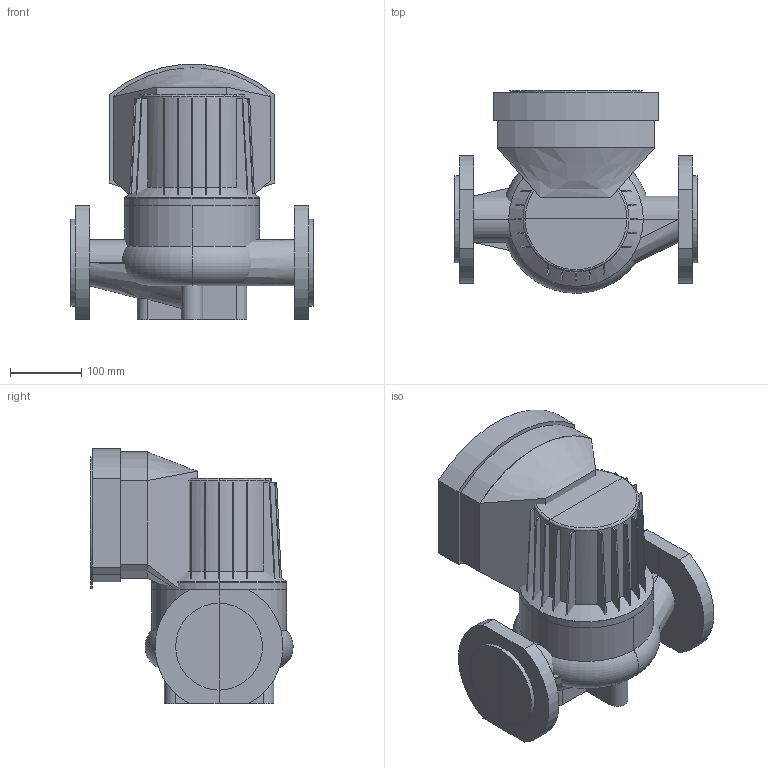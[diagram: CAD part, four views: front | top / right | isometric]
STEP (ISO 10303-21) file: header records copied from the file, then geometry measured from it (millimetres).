
FILE_DESCRIPTION(/* description */ (''),/* implementation_level */ '2;1');
FILE_NAME(/* name */ 'C:\Users\a.zyazeva\Desktop\Wellmix\TG TD WRE WRS\WRE 65-150F.stp',/* time_stamp */ '2024-08-28T00:12:53+03:00',/* author */ ('a.zyazeva'),/* organization */ (''),/* preprocessor_version */ 'ST-DEVELOPER v18.1',/* originating_system */ 'Autodesk Inventor 2022',/* authorisation */ '');
FILE_SCHEMA (('AUTOMOTIVE_DESIGN { 1 0 10303 214 3 1 1 }'));
Length unit declared in the file: millimetre
Products named in the file (1): WRE 65-150F
Bounding box: 340 x 284 x 358.57 mm (x, y, z)
Volume: 14502935.8 mm3; surface area: 1050481.2 mm2
Topology: 10 solids, 10 shells, 265 faces, 686 edges, 447 vertices
Faces by surface type: plane 212, cylinder 24, bspline 23, torus 4, cone 2
Entity records: 9161 total; most frequent: CARTESIAN_POINT 2823, ORIENTED_EDGE 1372, DIRECTION 1168, EDGE_CURVE 686, LINE 502, VECTOR 502, VERTEX_POINT 447, AXIS2_PLACEMENT_3D 333
